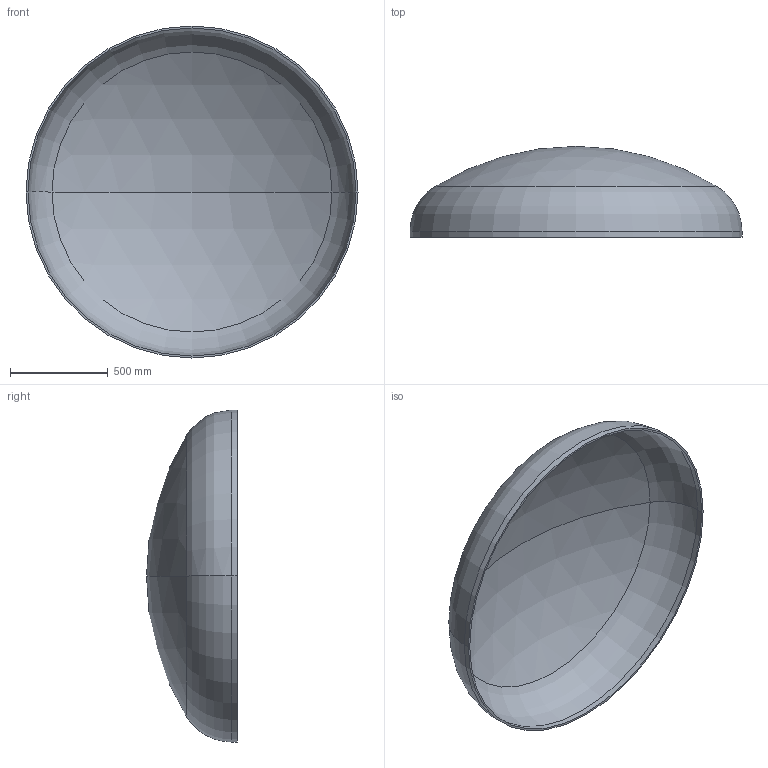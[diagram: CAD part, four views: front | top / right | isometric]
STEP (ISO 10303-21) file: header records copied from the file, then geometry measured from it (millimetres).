
FILE_DESCRIPTION (( 'STEP AP203' ), '1' );
FILE_NAME ('DIN 28013 Korbbogenform_-_Boden DIN 28013 - 1700 x 30 - I - s=10.step', '2016-07-01T11:36:38', ( '' ), ( '' ), 'SwSTEP 2.0', 'SolidWorks 2013', '' );
FILE_SCHEMA (( 'CONFIG_CONTROL_DESIGN' ));
Length unit declared in the file: millimetre
Products named in the file (1): DIN 28013 Korbbogenform_-_Boden DIN 28013 - 1700 x 30 - I - s=10
Bounding box: 1700 x 465.33 x 1700 mm (x, y, z)
Volume: 32744585.2 mm3; surface area: 6602216.8 mm2
Topology: 1 solids, 1 shells, 13 faces, 24 edges, 14 vertices
Faces by surface type: torus 4, cylinder 4, sphere 4, plane 1
Entity records: 407 total; most frequent: DIRECTION 72, CARTESIAN_POINT 52, ORIENTED_EDGE 48, AXIS2_PLACEMENT_3D 34, EDGE_CURVE 24, CIRCLE 20, VERTEX_POINT 14, EDGE_LOOP 14
